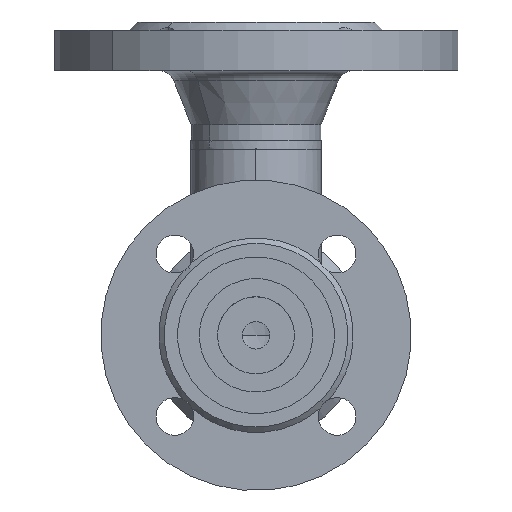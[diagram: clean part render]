
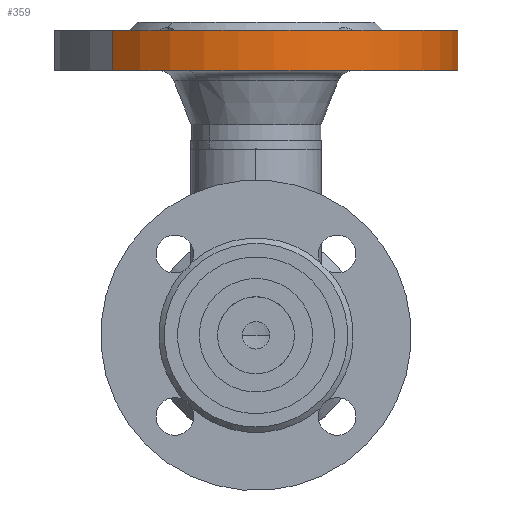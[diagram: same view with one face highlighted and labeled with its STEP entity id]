
A CAD part, front view. The second image highlights one B-rep face of the part: STEP entity #359.
In plain terms, the highlighted cylindrical face has radius 75 mm (diameter 150 mm), a partial arc.
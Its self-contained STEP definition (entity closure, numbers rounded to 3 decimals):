
#194 = EDGE_LOOP ( 'NONE', ( #13957, #12605, #6505, #13789 ) ) ;
#195 = EDGE_CURVE ( 'NONE', #11860, #11984, #11771, .T. ) ;
#359 = ADVANCED_FACE ( 'NONE', ( #11794 ), #11795, .T. ) ;
#5892 = CARTESIAN_POINT ( 'NONE',  ( -75., 18., 0. ) ) ;
#5977 = CARTESIAN_POINT ( 'NONE',  ( 75., 18., 0. ) ) ;
#6140 = LINE ( 'NONE', #6141, #6145 ) ;
#6141 = CARTESIAN_POINT ( 'NONE',  ( 75., 75., 0. ) ) ;
#6145 = VECTOR ( 'NONE', #6146, 1000. ) ;
#6146 = DIRECTION ( 'NONE',  ( 0., 1., 0. ) ) ;
#6505 = ORIENTED_EDGE ( 'NONE', *, *, #195, .F. ) ;
#7392 = CARTESIAN_POINT ( 'NONE',  ( 75., 3., 0. ) ) ;
#9293 = CARTESIAN_POINT ( 'NONE',  ( -75., 3., 0. ) ) ;
#9315 = LINE ( 'NONE', #9316, #9317 ) ;
#9316 = CARTESIAN_POINT ( 'NONE',  ( -75., 75., 0. ) ) ;
#9317 = VECTOR ( 'NONE', #9318, 1000. ) ;
#9318 = DIRECTION ( 'NONE',  ( 0., 1., 0. ) ) ;
#9529 = CIRCLE ( 'NONE', #9534, 75. ) ;
#9534 = AXIS2_PLACEMENT_3D ( 'NONE', #9535, #9536, #9537 ) ;
#9535 = CARTESIAN_POINT ( 'NONE',  ( 0., 3., 0. ) ) ;
#9536 = DIRECTION ( 'NONE',  ( 0., 1., 0. ) ) ;
#9537 = DIRECTION ( 'NONE',  ( -1., 0., 0. ) ) ;
#11771 = CIRCLE ( 'NONE', #11772, 75. ) ;
#11772 = AXIS2_PLACEMENT_3D ( 'NONE', #11773, #11774, #11775 ) ;
#11773 = CARTESIAN_POINT ( 'NONE',  ( 0., 18., 0. ) ) ;
#11774 = DIRECTION ( 'NONE',  ( 0., 1., 0. ) ) ;
#11775 = DIRECTION ( 'NONE',  ( -1., 0., 0. ) ) ;
#11794 = FACE_OUTER_BOUND ( 'NONE', #194, .T. ) ;
#11795 = CYLINDRICAL_SURFACE ( 'NONE', #11796, 75. ) ;
#11796 = AXIS2_PLACEMENT_3D ( 'NONE', #11797, #11798, #11799 ) ;
#11797 = CARTESIAN_POINT ( 'NONE',  ( 0., 75., 0. ) ) ;
#11798 = DIRECTION ( 'NONE',  ( 0., 1., 0. ) ) ;
#11799 = DIRECTION ( 'NONE',  ( -1., 0., 0. ) ) ;
#11860 = VERTEX_POINT ( 'NONE', #5892 ) ;
#11984 = VERTEX_POINT ( 'NONE', #5977 ) ;
#12216 = EDGE_CURVE ( 'NONE', #13135, #11984, #6140, .T. ) ;
#12605 = ORIENTED_EDGE ( 'NONE', *, *, #12216, .T. ) ;
#13135 = VERTEX_POINT ( 'NONE', #7392 ) ;
#13359 = VERTEX_POINT ( 'NONE', #9293 ) ;
#13410 = EDGE_CURVE ( 'NONE', #13359, #11860, #9315, .T. ) ;
#13580 = EDGE_CURVE ( 'NONE', #13359, #13135, #9529, .T. ) ;
#13789 = ORIENTED_EDGE ( 'NONE', *, *, #13410, .F. ) ;
#13957 = ORIENTED_EDGE ( 'NONE', *, *, #13580, .T. ) ;
